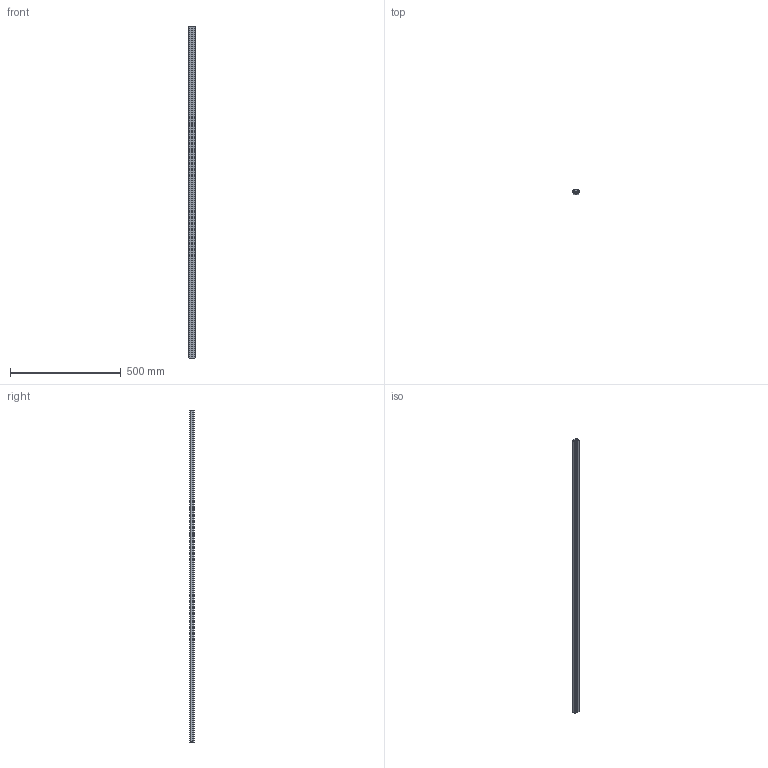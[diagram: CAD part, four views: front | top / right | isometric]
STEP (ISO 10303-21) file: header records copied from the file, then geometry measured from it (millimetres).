
FILE_DESCRIPTION (( 'STEP AP203' ), '1' );
FILE_NAME ('MLF 1_-_MLF 1 1498 mm lang.step', '2005-06-03T08:17:25', ( ' ' ), ( ' ' ), 'SwSTEP 2.0', 'SolidWorks 2004231', '' );
FILE_SCHEMA (( 'CONFIG_CONTROL_DESIGN' ));
Length unit declared in the file: millimetre
Products named in the file (1): MLF 1_-_MLF 1  1498 mm lang
Bounding box: 30 x 20 x 1498 mm (x, y, z)
Volume: 605949 mm3; surface area: 263615.6 mm2
Topology: 1 solids, 1 shells, 72 faces, 222 edges, 144 vertices
Faces by surface type: plane 52, cylinder 20
Entity records: 2543 total; most frequent: ORIENTED_EDGE 444, CARTESIAN_POINT 439, DIRECTION 408, EDGE_CURVE 222, VECTOR 182, LINE 182, VERTEX_POINT 144, AXIS2_PLACEMENT_3D 113
